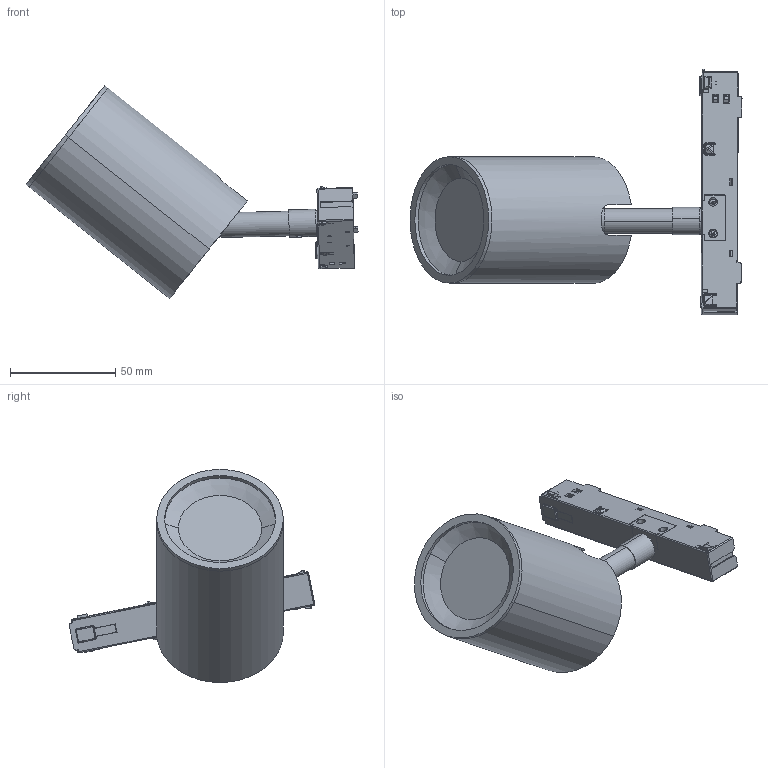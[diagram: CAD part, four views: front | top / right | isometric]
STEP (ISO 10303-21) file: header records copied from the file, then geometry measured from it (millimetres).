
FILE_DESCRIPTION (( 'STEP AP214' ), '1' );
FILE_NAME ('LATTO_tracklight.STEP', '2026-02-17T12:08:47', ( '' ), ( '' ), 'SwSTEP 2.0', 'SolidWorks 2023', '' );
FILE_SCHEMA (( 'AUTOMOTIVE_DESIGN' ));
Length unit declared in the file: millimetre
Products named in the file (5): Rotula1 1; prueba 2; Rotula_noon; LATTO_tracklight; union-rotula PEQUEÑO
Assembly tree (4 placements, depth 2):
  LATTO_tracklight
    Rotula1 1
    union-rotula PEQUEÑO
    prueba 2
    Rotula_noon
Bounding box: 157.42 x 116.43 x 101.08 mm (x, y, z)
Volume: 182501.9 mm3; surface area: 60986.2 mm2
Topology: 5 solids, 35 shells, 1622 faces, 4519 edges, 2949 vertices
Faces by surface type: plane 1234, cylinder 257, bspline 77, cone 44, torus 10
Entity records: 57309 total; most frequent: CARTESIAN_POINT 18133, ORIENTED_EDGE 8992, DIRECTION 6563, EDGE_CURVE 4502, VERTEX_POINT 2949, LINE 2641, VECTOR 2641, AXIS2_PLACEMENT_3D 1961
